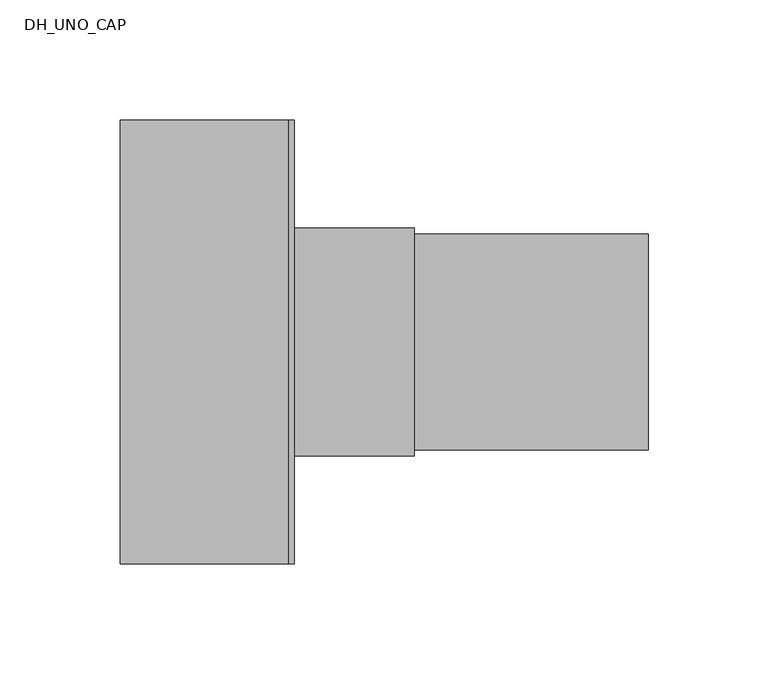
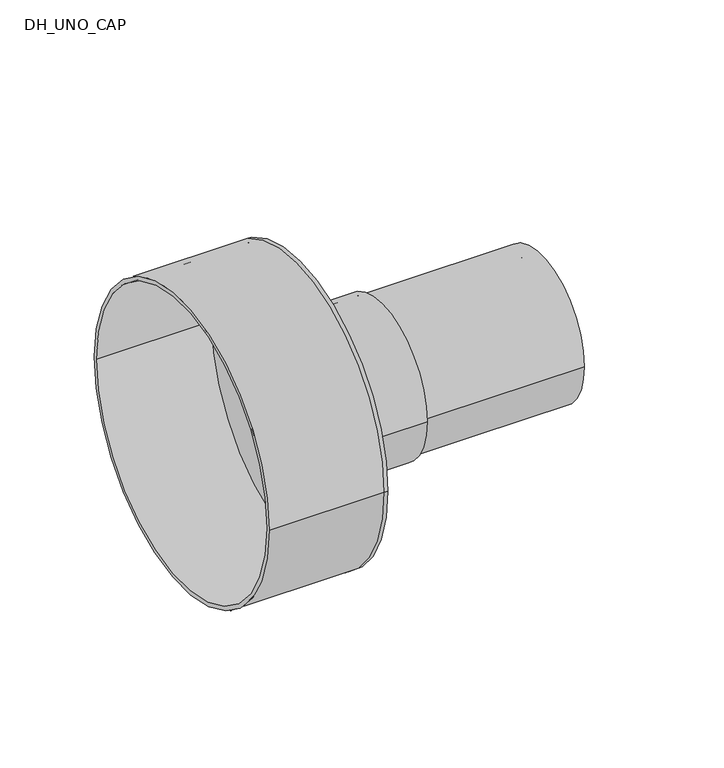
"""IFC4 building model written with IfcOpenShell, lengths in millimetres: pipe fitting geometry, DH_UNO_CAP : INSULPEX UNO + 11 Heating - Rubber Cap."""

from ifc_helpers import new_model, si_unit, point, frame, origin, origin_2d, place, context, project, spatial, polyline, circle_curve, trimmed, segment, composite_curve, outline, extrude, source, transform, mapped, element, save
from ifc_brep_helpers import plane_surface, cylinder_surface, revolved_surface, advanced_brep


def dh_uno_cap_8f49c9b3(model_context):
    return source(origin(), model_context, "Body", "SolidModel", [
        extrude(outline(composite_curve([segment(trimmed(circle_curve(origin_2d(), 45.0), [point((-45.0, 0.0))], [point((45.0, 0.0))], False, "CARTESIAN"), True, "CONTINUOUS"), segment(trimmed(circle_curve(origin_2d(), 45.0), [point((45.0, 0.0))], [point((-45.0, 0.0))], False, "CARTESIAN"), True, "CONTINUOUS")], self_intersect=False), holes=[composite_curve([segment(trimmed(circle_curve(origin_2d(), 36.8), [point((-36.8, 0.0))], [point((36.8, 0.0))], True, "CARTESIAN"), True, "CONTINUOUS"), segment(trimmed(circle_curve(origin_2d(), 36.8), [point((36.8, 0.0))], [point((-36.8, 0.0))], True, "CARTESIAN"), True, "CONTINUOUS")], self_intersect=False)]), frame((0.0, 0.0, 0.0), z_axis=(1.0, 0.0, 0.0), x_axis=(0.0, 1.0, 0.0)), (0.0, 0.0, 1.0), 150.0),
        advanced_brep(
        [(-70.0, -92.5, 0.0), (-70.0, 92.5, 0.0), (-70.0, -90.0, 0.0), (-70.0, 90.0, 0.0), (0.0, -90.0, 0.0), (0.0, 90.0, 0.0), (0.0, -92.5, 0.0), (0.0, 92.5, 0.0), (0.0, 45.0, 0.0), (0.0, -45.0, 0.0), (2.5, -92.5, 0.0), (2.5, 92.5, 0.0), (2.5, -45.0, 0.0), (2.5, 45.0, 0.0)],
        [
            (0, 1, circle_curve(frame((-70.0, 0.0, 0.0), z_axis=(-1.0, 0.0, 0.0), x_axis=(0.0, 1.0, 0.0)), 92.5)),
            (1, 0, circle_curve(frame((-70.0, 0.0, 0.0), z_axis=(-1.0, 0.0, 0.0), x_axis=(0.0, 1.0, 0.0)), 92.5)),
            (2, 3, circle_curve(frame((-70.0, 0.0, 0.0), z_axis=(1.0, 0.0, 0.0), x_axis=(0.0, 1.0, 0.0)), 90.0)),
            (3, 2, circle_curve(frame((-70.0, 0.0, 0.0), z_axis=(1.0, 0.0, 0.0), x_axis=(0.0, 1.0, 0.0)), 90.0)),
            (2, 4),
            (4, 5, circle_curve(frame((0.0, 0.0, 0.0), z_axis=(1.0, 0.0, 0.0), x_axis=(0.0, 1.0, 0.0)), 90.0)),
            (5, 3),
            (5, 4, circle_curve(frame((0.0, 0.0, 0.0), z_axis=(1.0, 0.0, 0.0), x_axis=(0.0, 1.0, 0.0)), 90.0)),
            (0, 6),
            (6, 7, circle_curve(frame((0.0, 0.0, 0.0), z_axis=(-1.0, 0.0, 0.0), x_axis=(0.0, 1.0, 0.0)), 92.5)),
            (7, 1),
            (7, 6, circle_curve(frame((0.0, 0.0, 0.0), z_axis=(-1.0, 0.0, 0.0), x_axis=(0.0, 1.0, 0.0)), 92.5)),
            (8, 9, circle_curve(frame((0.0, 0.0, 0.0), z_axis=(1.0, 0.0, 0.0), x_axis=(0.0, 1.0, 0.0)), 45.0)),
            (9, 8, circle_curve(frame((0.0, 0.0, 0.0), z_axis=(1.0, 0.0, 0.0), x_axis=(0.0, 1.0, 0.0)), 45.0)),
            (10, 11, circle_curve(frame((2.5, 0.0, 0.0), z_axis=(1.0, 0.0, 0.0), x_axis=(0.0, 1.0, 0.0)), 92.5)),
            (11, 10, circle_curve(frame((2.5, 0.0, 0.0), z_axis=(1.0, 0.0, 0.0), x_axis=(0.0, 1.0, 0.0)), 92.5)),
            (12, 13, circle_curve(frame((2.5, 0.0, 0.0), z_axis=(-1.0, 0.0, 0.0), x_axis=(0.0, 1.0, 0.0)), 45.0)),
            (13, 12, circle_curve(frame((2.5, 0.0, 0.0), z_axis=(-1.0, 0.0, 0.0), x_axis=(0.0, 1.0, 0.0)), 45.0)),
            (11, 7),
            (6, 10),
            (8, 13),
            (12, 9),
        ],
        [
            plane_surface(frame((-70.0, 0.0, 0.0), z_axis=(-1.0, 0.0, 0.0), x_axis=(0.0, 0.0, 1.0))),
            revolved_surface(polyline([(0.0, 90.0, 0.0), (-70.0, 90.0, 0.0)]), (-70.0, 0.0, 0.0), (1.0, 0.0, 0.0)),
            cylinder_surface(frame((-70.0, 0.0, 0.0), z_axis=(-1.0, 0.0, 0.0), x_axis=(0.0, 1.0, 0.0)), 92.5),
            plane_surface(frame((0.0, 0.0, 0.0), z_axis=(-1.0, 0.0, 0.0), x_axis=(0.0, 0.0, 1.0))),
            plane_surface(frame((2.5, 0.0, 0.0), z_axis=(1.0, 0.0, 0.0), x_axis=(0.0, 0.0, 1.0))),
            cylinder_surface(frame((0.0, 0.0, 0.0), z_axis=(-1.0, 0.0, 0.0), x_axis=(0.0, 1.0, 0.0)), 92.5),
            revolved_surface(polyline([(0.0, 45.0, 0.0), (2.5, 45.0, 0.0)]), (0.0, 0.0, 0.0), (-1.0, 0.0, 0.0)),
        ],
        [
            (0, [[1, 2], [3, 4]]),
            (1, [[-3, 5, 6, 7]]),
            (1, [[-4, -7, 8, -5]]),
            (2, [[-1, 9, 10, 11]]),
            (2, [[-2, -11, 12, -9]]),
            (3, [[-6, -8], [13, 14]]),
            (4, [[15, 16], [17, 18]]),
            (5, [[-16, 19, -10, 20]]),
            (5, [[-15, -20, -12, -19]]),
            (6, [[21, -17, 22, -13]]),
            (6, [[-21, -14, -22, -18]]),
        ],
    ),
        extrude(outline(composite_curve([segment(trimmed(circle_curve(origin_2d(), 47.5), [point((-47.5, 0.0))], [point((47.5, 0.0))], False, "CARTESIAN"), True, "CONTINUOUS"), segment(trimmed(circle_curve(origin_2d(), 47.5), [point((47.5, 0.0))], [point((-47.5, 0.0))], False, "CARTESIAN"), True, "CONTINUOUS")], self_intersect=False), holes=[composite_curve([segment(trimmed(circle_curve(origin_2d(), 45.0), [point((-45.0, 0.0))], [point((45.0, 0.0))], True, "CARTESIAN"), True, "CONTINUOUS"), segment(trimmed(circle_curve(origin_2d(), 45.0), [point((45.0, 0.0))], [point((-45.0, 0.0))], True, "CARTESIAN"), True, "CONTINUOUS")], self_intersect=False)]), frame((2.5, 0.0, 0.0), z_axis=(1.0, 0.0, 0.0), x_axis=(0.0, 1.0, 0.0)), (0.0, 0.0, 1.0), 50.0),
    ])


if __name__ == "__main__":
    model = new_model("IFC4")
    model_context = context("Model", 3, world=origin())
    ifc_project = project(units=[si_unit("LENGTHUNIT", "METRE", prefix="MILLI")], contexts=[model_context])
    site = spatial("IfcSite", under=ifc_project)
    building = spatial("IfcBuilding", under=site)
    placement = place(None, origin())
    dh_uno_cap_shape = dh_uno_cap_8f49c9b3(model_context)
    element("IfcPipeFitting", 1, ObjectType="DH_UNO_CAP : INSULPEX UNO + 11 Heating - Rubber Cap", at=placement, inside=building, context=model_context, shape_type="MappedRepresentation", body=[
        mapped(dh_uno_cap_shape, transform((0.0, 0.0, 0.0), x_axis=(1.0, 0.0, 0.0), y_axis=(0.0, 1.0, 0.0), z_axis=(0.0, 0.0, 1.0))),
    ])
    save(model, "model.ifc")
